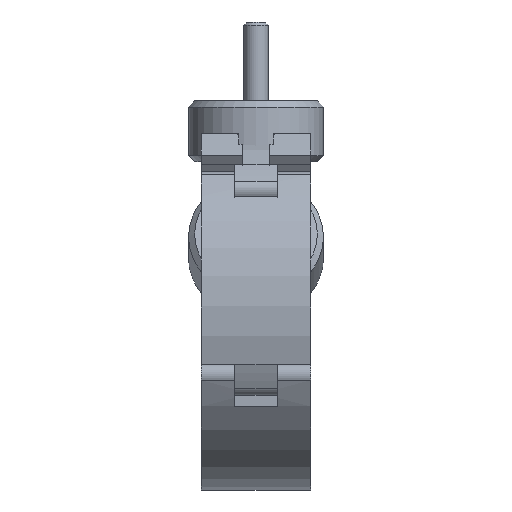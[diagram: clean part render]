
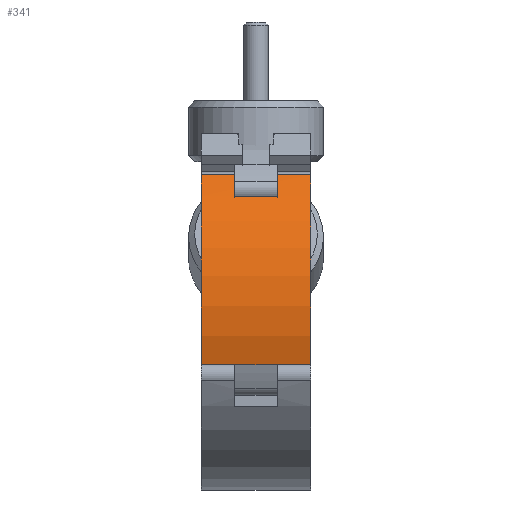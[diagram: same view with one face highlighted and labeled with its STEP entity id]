
A CAD part, left-side view. The second image highlights one B-rep face of the part: STEP entity #341.
In plain terms, the highlighted cylindrical face has radius 30 mm (diameter 60 mm), a partial arc.
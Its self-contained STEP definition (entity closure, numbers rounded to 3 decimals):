
#341 = ADVANCED_FACE( '', ( #497 ), #498, .T. );
#497 = FACE_OUTER_BOUND( '', #661, .T. );
#498 = CYLINDRICAL_SURFACE( '', #662, 30. );
#661 = EDGE_LOOP( '', ( #872, #873, #874, #875, #876, #877, #878, #879, #880, #881 ) );
#662 = AXIS2_PLACEMENT_3D( '', #882, #883, #884 );
#872 = ORIENTED_EDGE( '', *, *, #1352, .T. );
#873 = ORIENTED_EDGE( '', *, *, #1345, .T. );
#874 = ORIENTED_EDGE( '', *, *, #1360, .F. );
#875 = ORIENTED_EDGE( '', *, *, #1361, .F. );
#876 = ORIENTED_EDGE( '', *, *, #1362, .F. );
#877 = ORIENTED_EDGE( '', *, *, #1363, .F. );
#878 = ORIENTED_EDGE( '', *, *, #1364, .T. );
#879 = ORIENTED_EDGE( '', *, *, #1365, .T. );
#880 = ORIENTED_EDGE( '', *, *, #1366, .F. );
#881 = ORIENTED_EDGE( '', *, *, #1349, .T. );
#882 = CARTESIAN_POINT( '', ( 0., -9., 0. ) );
#883 = DIRECTION( '', ( 0., -1., 0. ) );
#884 = DIRECTION( '', ( 0., 0., 1. ) );
#1345 = EDGE_CURVE( '', #1539, #1543, #1545, .T. );
#1349 = EDGE_CURVE( '', #1546, #1551, #1553, .T. );
#1352 = EDGE_CURVE( '', #1551, #1539, #1558, .F. );
#1360 = EDGE_CURVE( '', #1571, #1543, #1572, .T. );
#1361 = EDGE_CURVE( '', #1573, #1571, #1574, .T. );
#1362 = EDGE_CURVE( '', #1524, #1573, #1575, .T. );
#1363 = EDGE_CURVE( '', #1576, #1524, #1577, .T. );
#1364 = EDGE_CURVE( '', #1576, #1578, #1579, .T. );
#1365 = EDGE_CURVE( '', #1578, #1580, #1581, .T. );
#1366 = EDGE_CURVE( '', #1546, #1580, #1582, .F. );
#1524 = VERTEX_POINT( '', #1768 );
#1539 = VERTEX_POINT( '', #1785 );
#1543 = VERTEX_POINT( '', #1790 );
#1545 = LINE( '', #1792, #1793 );
#1546 = VERTEX_POINT( '', #1794 );
#1551 = VERTEX_POINT( '', #1801 );
#1553 = LINE( '', #1804, #1805 );
#1558 = CIRCLE( '', #1811, 30. );
#1571 = VERTEX_POINT( '', #1827 );
#1572 = CIRCLE( '', #1828, 30. );
#1573 = VERTEX_POINT( '', #1829 );
#1574 = LINE( '', #1830, #1831 );
#1575 = LINE( '', #1832, #1833 );
#1576 = VERTEX_POINT( '', #1834 );
#1577 = LINE( '', #1835, #1836 );
#1578 = VERTEX_POINT( '', #1837 );
#1579 = CIRCLE( '', #1838, 30. );
#1580 = VERTEX_POINT( '', #1839 );
#1581 = LINE( '', #1840, #1841 );
#1582 = CIRCLE( '', #1842, 30. );
#1768 = CARTESIAN_POINT( '', ( -17.205, -3.5, 24.576 ) );
#1785 = CARTESIAN_POINT( '', ( 15.265, 3.55, 25.826 ) );
#1790 = CARTESIAN_POINT( '', ( 15.265, 9., 25.826 ) );
#1792 = CARTESIAN_POINT( '', ( 15.265, -9., 25.826 ) );
#1793 = VECTOR( '', #2169, 1000. );
#1794 = CARTESIAN_POINT( '', ( 10.87, -3.55, 27.961 ) );
#1801 = CARTESIAN_POINT( '', ( 10.87, 3.55, 27.961 ) );
#1804 = CARTESIAN_POINT( '', ( 10.87, -9., 27.961 ) );
#1805 = VECTOR( '', #2173, 1000. );
#1811 = AXIS2_PLACEMENT_3D( '', #2178, #2179, #2180 );
#1827 = CARTESIAN_POINT( '', ( -17.205, 9., 24.576 ) );
#1828 = AXIS2_PLACEMENT_3D( '', #2196, #2197, #2198 );
#1829 = CARTESIAN_POINT( '', ( -17.205, 3.5, 24.576 ) );
#1830 = CARTESIAN_POINT( '', ( -17.205, -9., 24.576 ) );
#1831 = VECTOR( '', #2199, 1000. );
#1832 = CARTESIAN_POINT( '', ( -17.205, -3.5, 24.576 ) );
#1833 = VECTOR( '', #2200, 1000. );
#1834 = CARTESIAN_POINT( '', ( -17.205, -9., 24.576 ) );
#1835 = CARTESIAN_POINT( '', ( -17.205, -9., 24.576 ) );
#1836 = VECTOR( '', #2201, 1000. );
#1837 = CARTESIAN_POINT( '', ( 15.265, -9., 25.826 ) );
#1838 = AXIS2_PLACEMENT_3D( '', #2202, #2203, #2204 );
#1839 = CARTESIAN_POINT( '', ( 15.265, -3.55, 25.826 ) );
#1840 = CARTESIAN_POINT( '', ( 15.265, -9., 25.826 ) );
#1841 = VECTOR( '', #2205, 1000. );
#1842 = AXIS2_PLACEMENT_3D( '', #2206, #2207, #2208 );
#2169 = DIRECTION( '', ( 0., 1., 0. ) );
#2173 = DIRECTION( '', ( 0., 1., 0. ) );
#2178 = CARTESIAN_POINT( '', ( 0., 3.55, 0. ) );
#2179 = DIRECTION( '', ( 0., -1., 0. ) );
#2180 = DIRECTION( '', ( 0., 0., -1. ) );
#2196 = CARTESIAN_POINT( '', ( 0., 9., 0. ) );
#2197 = DIRECTION( '', ( 0., 1., 0. ) );
#2198 = DIRECTION( '', ( 1., 0., 0. ) );
#2199 = DIRECTION( '', ( 0., 1., 0. ) );
#2200 = DIRECTION( '', ( 0., 1., 0. ) );
#2201 = DIRECTION( '', ( 0., 1., 0. ) );
#2202 = CARTESIAN_POINT( '', ( 0., -9., 0. ) );
#2203 = DIRECTION( '', ( 0., 1., 0. ) );
#2204 = DIRECTION( '', ( 1., 0., 0. ) );
#2205 = DIRECTION( '', ( 0., 1., 0. ) );
#2206 = CARTESIAN_POINT( '', ( 0., -3.55, 0. ) );
#2207 = DIRECTION( '', ( 0., -1., 0. ) );
#2208 = DIRECTION( '', ( 0., 0., -1. ) );
